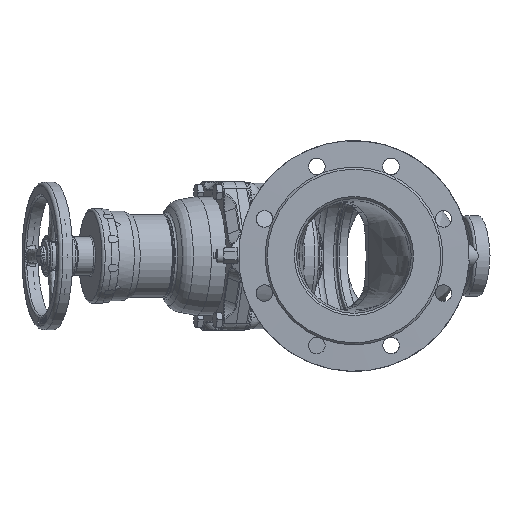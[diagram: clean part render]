
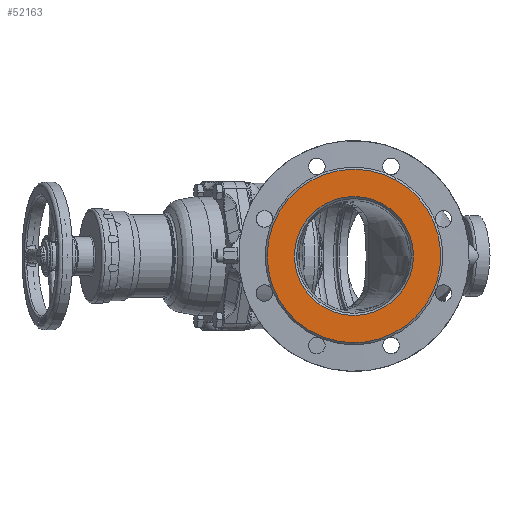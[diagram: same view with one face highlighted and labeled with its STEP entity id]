
A CAD part, left-side view. The second image highlights one B-rep face of the part: STEP entity #52163.
In plain terms, the highlighted planar face has unit normal (-1, 0, 0).
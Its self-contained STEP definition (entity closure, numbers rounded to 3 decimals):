
#16040 = DIRECTION ( 'NONE',  ( 0., 0., 1. ) ) ;
#16041 = DIRECTION ( 'NONE',  ( 1., 0., 0. ) ) ;
#16043 = CARTESIAN_POINT ( 'NONE',  ( -187., 0., 0. ) ) ;
#16044 = CIRCLE ( 'NONE', #16081, 64.5 ) ;
#16048 = CIRCLE ( 'NONE', #16125, 94. ) ;
#16054 = FACE_BOUND ( 'NONE', #52335, .T. ) ;
#16081 = AXIS2_PLACEMENT_3D ( 'NONE', #16043, #16041, #16040 ) ;
#16094 = PLANE ( 'NONE',  #16148 ) ;
#16105 = DIRECTION ( 'NONE',  ( -1., 0., 0. ) ) ;
#16117 = CARTESIAN_POINT ( 'NONE',  ( -187., -62.5, 0. ) ) ;
#16119 = FACE_OUTER_BOUND ( 'NONE', #52233, .T. ) ;
#16122 = DIRECTION ( 'NONE',  ( 0., 0., 1. ) ) ;
#16123 = DIRECTION ( 'NONE',  ( -1., 0., 0. ) ) ;
#16124 = CARTESIAN_POINT ( 'NONE',  ( -187., 0., 0. ) ) ;
#16125 = AXIS2_PLACEMENT_3D ( 'NONE', #16124, #16123, #16122 ) ;
#16148 = AXIS2_PLACEMENT_3D ( 'NONE', #16117, #16105, #16187 ) ;
#16187 = DIRECTION ( 'NONE',  ( 0., 0., 1. ) ) ;
#20993 = CARTESIAN_POINT ( 'NONE',  ( -187., 0., 94. ) ) ;
#20995 = CARTESIAN_POINT ( 'NONE',  ( -187., 0., 64.5 ) ) ;
#20996 = VERTEX_POINT ( 'NONE', #20993 ) ;
#20998 = VERTEX_POINT ( 'NONE', #20995 ) ;
#52143 = EDGE_CURVE ( 'NONE', #20998, #20998, #16044, .T. ) ;
#52156 = EDGE_CURVE ( 'NONE', #20996, #20996, #16048, .T. ) ;
#52163 = ADVANCED_FACE ( 'NONE', ( #16054, #16119 ), #16094, .T. ) ;
#52169 = ORIENTED_EDGE ( 'NONE', *, *, #52143, .T. ) ;
#52233 = EDGE_LOOP ( 'NONE', ( #52237 ) ) ;
#52237 = ORIENTED_EDGE ( 'NONE', *, *, #52156, .T. ) ;
#52335 = EDGE_LOOP ( 'NONE', ( #52169 ) ) ;
